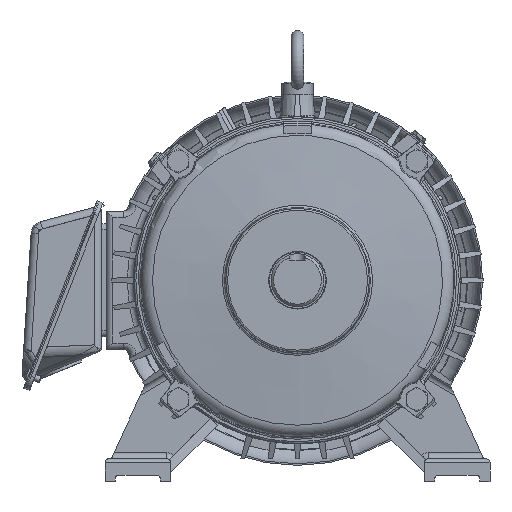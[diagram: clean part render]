
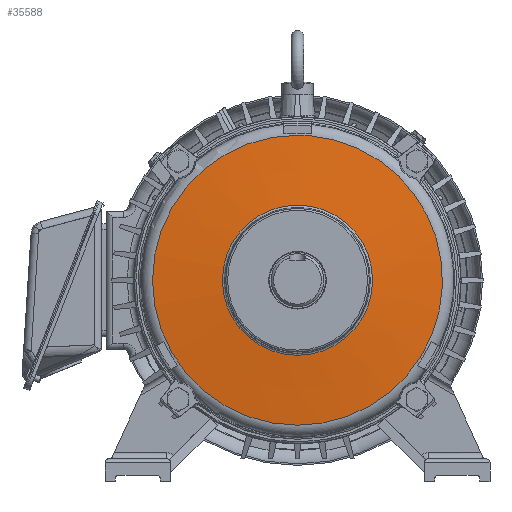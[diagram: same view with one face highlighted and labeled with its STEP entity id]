
A CAD part, front view. The second image highlights one B-rep face of the part: STEP entity #35588.
In plain terms, the highlighted conical face has half-angle 84.317 degrees and reference radius 58 mm.
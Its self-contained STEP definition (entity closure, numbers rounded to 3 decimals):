
#654=CONICAL_SURFACE('',#38109,58.,1.472);
#3228=CIRCLE('',#38099,115.257);
#3237=CIRCLE('',#38110,59.685);
#7337=ORIENTED_EDGE('',*,*,#15354,.T.);
#7338=ORIENTED_EDGE('',*,*,#15369,.T.);
#15354=EDGE_CURVE('',#19614,#19614,#3228,.T.);
#15369=EDGE_CURVE('',#19628,#19628,#3237,.T.);
#19614=VERTEX_POINT('',#59423);
#19628=VERTEX_POINT('',#59863);
#25825=EDGE_LOOP('',(#7337));
#25826=EDGE_LOOP('',(#7338));
#28107=FACE_BOUND('',#25825,.T.);
#28108=FACE_BOUND('',#25826,.T.);
#35588=ADVANCED_FACE('',(#28107,#28108),#654,.T.);
#38099=AXIS2_PLACEMENT_3D('',#59422,#43320,#43321);
#38109=AXIS2_PLACEMENT_3D('',#59861,#43340,#43341);
#38110=AXIS2_PLACEMENT_3D('',#59862,#43342,#43343);
#43320=DIRECTION('',(0.,-1.,0.));
#43321=DIRECTION('',(0.,0.,-1.));
#43340=DIRECTION('',(0.,1.,0.));
#43341=DIRECTION('',(0.,0.,1.));
#43342=DIRECTION('',(0.,1.,0.));
#43343=DIRECTION('',(0.,0.,1.));
#59422=CARTESIAN_POINT('',(0.,20.697,0.));
#59423=CARTESIAN_POINT('',(0.,20.697,-115.257));
#59861=CARTESIAN_POINT('',(0.,15.,0.));
#59862=CARTESIAN_POINT('',(0.,15.168,0.));
#59863=CARTESIAN_POINT('',(0.,15.168,59.685));
